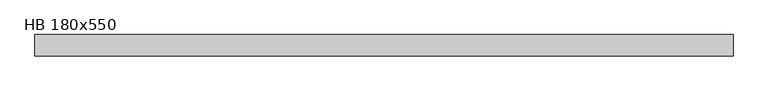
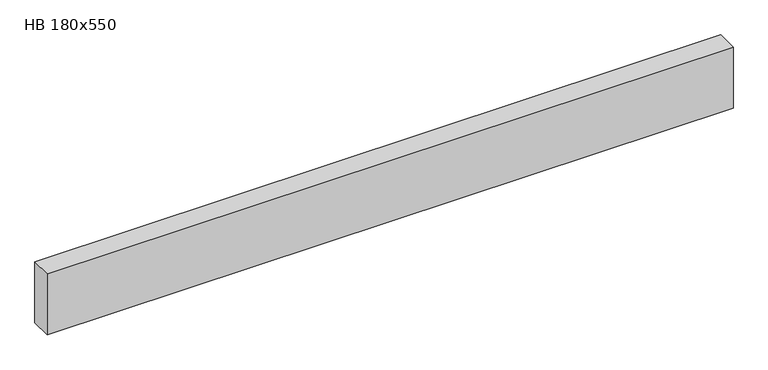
"""IFC4 building model written with IfcOpenShell, lengths in millimetres: beam geometry, NLRS_28_SF_LIB_balk hout gelamineerd_generiek_ISR : HB 180x550."""

from ifc_helpers import new_model, si_unit, frame, origin, place, context, project, spatial, polyline, outline, extrude, source, transform, mapped, element, save


def hb_180x550_dfd28379(model_context):
    return source(origin(), model_context, "Body", "SweptSolid", [
        extrude(outline(polyline([(2921.5258939, 90.0), (2921.5258939, -90.0), (-2914.3927265, -90.0), (-2914.3927265, 90.0), (2921.5258939, 90.0)])), frame((0.0, 0.0, -275.0), z_axis=(0.0, 0.0, 1.0), x_axis=(1.0, 0.0, 0.0)), (0.0, 0.0, 1.0), 550.0),
    ])


if __name__ == "__main__":
    model = new_model("IFC4")
    model_context = context("Model", 3, world=origin())
    ifc_project = project(units=[si_unit("LENGTHUNIT", "METRE", prefix="MILLI")], contexts=[model_context])
    site = spatial("IfcSite", under=ifc_project)
    building = spatial("IfcBuilding", under=site)
    placement = place(None, origin())
    hb_180x550_shape = hb_180x550_dfd28379(model_context)
    element("IfcBeam", 1, ObjectType="NLRS_28_SF_LIB_balk hout gelamineerd_generiek_ISR : HB 180x550", at=placement, inside=building, context=model_context, shape_type="MappedRepresentation", body=[
        mapped(hb_180x550_shape, transform((0.0, 0.0, 0.0), x_axis=(1.0, 0.0, 0.0), y_axis=(0.0, 1.0, 0.0), z_axis=(0.0, 0.0, 1.0))),
    ])
    save(model, "model.ifc")
